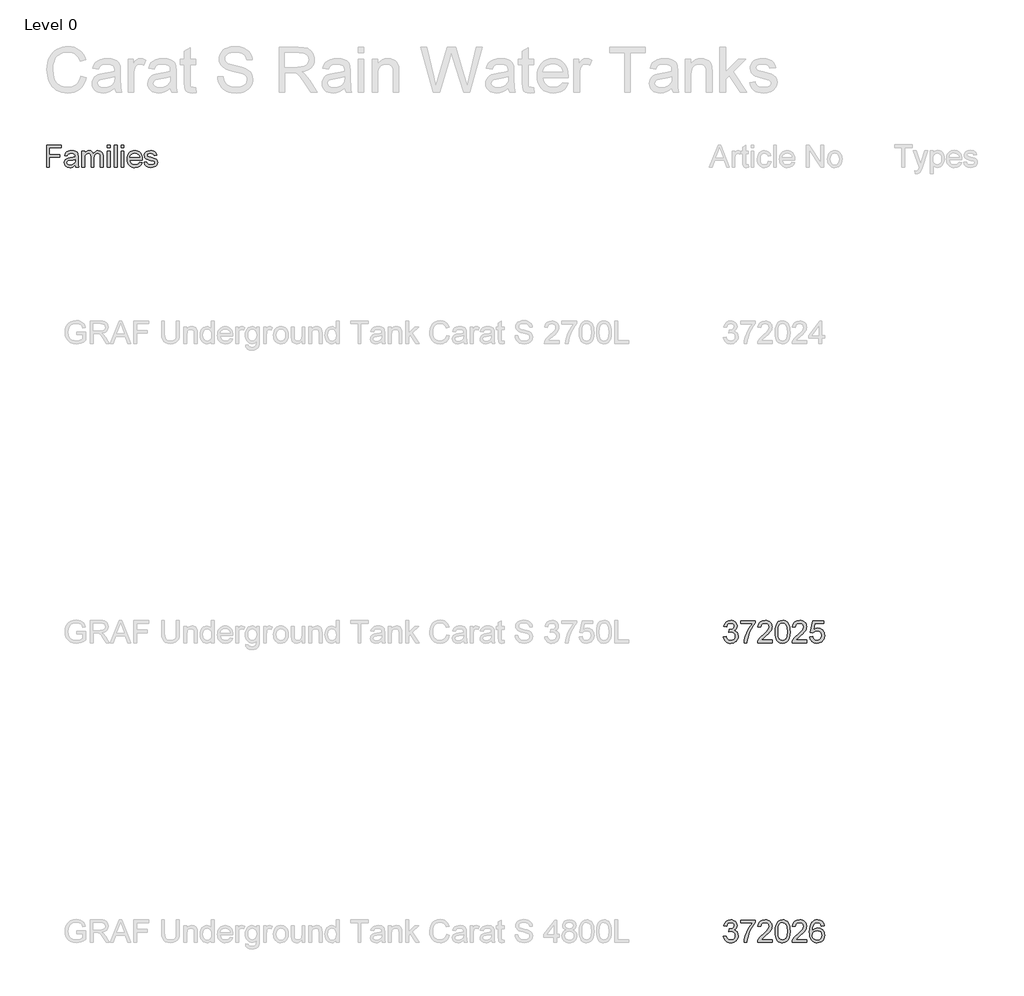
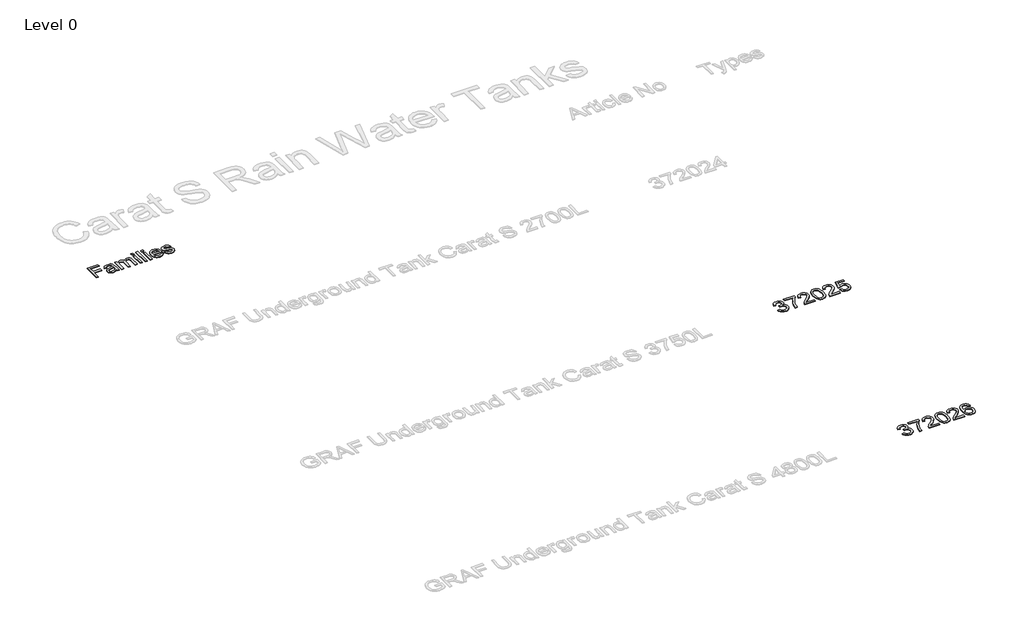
# One storey, part 17 of 20: 3 proxies.
"""IFC4 building model written with IfcOpenShell, lengths in millimetres."""

from ifc_helpers import new_model, si_unit, origin, origin_with_axes, place, context, project, spatial, polyline, outline, extrude, element, save

model = new_model("IFC4")

# Units and contexts
model_context = context("Model", 3, world=origin())
ifc_project = project(units=[si_unit("LENGTHUNIT", "METRE", prefix="MILLI")], contexts=[model_context])

# Site, building, storey
site = spatial("IfcSite", under=ifc_project)
building = spatial("IfcBuilding", under=site)
storey = spatial("IfcBuildingStorey", under=building, Name="Level 0", Elevation=0.0)

# Proxies
placement = place(None, origin())
element("IfcBuildingElementProxy", 1, Name="300mm Arial", ObjectType="300mm Arial", at=placement, inside=storey, context=model_context, shape_type="SweptSolid", body=[
    extrude(outline(polyline([(-15382.9152593, 11653.8274553), (-15382.9152593, 11949.2120707), (-15184.4537209, 11949.2120707), (-15184.4537209, 11912.2889938), (-15345.9921824, 11912.2889938), (-15345.9921824, 11824.5966861), (-15207.530644, 11824.5966861), (-15207.530644, 11787.6736092), (-15345.9921824, 11787.6736092), (-15345.9921824, 11653.8274553), (-15382.9152593, 11653.8274553)])), origin_with_axes(), (0.0, 0.0, 1.0), 10.0),
    extrude(outline(polyline([(-14999.8383363, 11681.519763), (-15017.4795622, 11666.3935611), (-15035.6436247, 11656.4957246), (-15054.7451872, 11651.0329842), (-15075.1989132, 11649.2120707), (-15106.0552834, 11653.5930803), (-15128.8167017, 11666.7361092), (-15142.8521584, 11686.6940419), (-15147.530644, 11711.519763), (-15145.763817, 11726.8262534), (-15140.4633363, 11740.7264938), (-15132.2872545, 11752.6255323), (-15121.8936247, 11761.9284169), (-15096.0402593, 11774.0438015), (-15064.093144, 11779.5966861), (-15026.3407401, 11785.4380323), (-15000.0546824, 11792.2889938), (-14999.8383363, 11800.5101476), (-15002.3804036, 11816.988513), (-15010.0066055, 11827.769763), (-15027.061894, 11835.7745707), (-15050.8239132, 11838.44284), (-15072.8191055, 11836.6669986), (-15088.1796824, 11831.3394746), (-15098.654442, 11821.4867101), (-15105.9921824, 11806.1351476), (-15142.9152593, 11810.7505323), (-15136.5060045, 11830.94284), (-15126.9417017, 11846.8082246), (-15113.3299228, 11858.941638), (-15094.7782401, 11867.9380323), (-15072.0889372, 11873.5089457), (-15046.0642978, 11875.3659169), (-15021.1033603, 11873.7252919), (-15001.3167017, 11868.8034169), (-14986.3978315, 11861.4025755), (-14976.0402593, 11852.3250515), (-14969.171269, 11841.1020948), (-14964.718144, 11827.2649553), (-14962.9152593, 11794.957263), (-14962.9152593, 11749.019763), (-14961.0402593, 11684.8731284), (-14953.6844901, 11653.8274553), (-14990.607567, 11653.8274553), (-14999.8383363, 11681.519763)]), holes=[polyline([(-14999.8383363, 11755.3659169), (-15059.405644, 11744.0438015), (-15091.1724709, 11738.0582246), (-15105.5594901, 11728.3226476), (-15110.607567, 11714.1159169), (-15107.858168, 11703.1363496), (-15099.6099709, 11694.1399553), (-15086.0432642, 11688.1363496), (-15067.3383363, 11686.1351476), (-15047.5066055, 11688.3436813), (-15029.982567, 11694.9692823), (-15015.7758363, 11704.7319025), (-15005.8960286, 11716.3514938), (-15001.515019, 11728.3226476), (-15000.0546824, 11744.9091861), (-14999.8383363, 11755.3659169)])]), origin_with_axes(), (0.0, 0.0, 1.0), 10.0),
    extrude(outline(polyline([(-14912.1460286, 11653.8274553), (-14912.1460286, 11870.7505323), (-14875.2229517, 11870.7505323), (-14875.2229517, 11835.0534169), (-14864.1171824, 11851.4506525), (-14849.8383363, 11864.2962053), (-14832.873192, 11872.598489), (-14813.7085286, 11875.3659169), (-14793.1736728, 11872.5444025), (-14776.7133363, 11864.0798592), (-14764.4176632, 11850.5311813), (-14756.3767978, 11832.457263), (-14742.9182642, 11851.2297991), (-14727.5667017, 11864.6387534), (-14710.3221103, 11872.684126), (-14691.1844901, 11875.3659169), (-14663.4290815, 11870.9037775), (-14642.9032401, 11857.5173592), (-14630.2199468, 11834.8460851), (-14625.9921824, 11802.5293784), (-14625.9921824, 11653.8274553), (-14662.9152593, 11653.8274553), (-14662.9152593, 11786.6639938), (-14666.3407401, 11817.4933207), (-14671.154442, 11825.9939217), (-14678.7445863, 11832.6736092), (-14688.5072065, 11837.0005323), (-14699.8383363, 11838.44284), (-14719.8413411, 11834.7469265), (-14736.1484324, 11823.6591861), (-14746.9927834, 11804.4224073), (-14750.607567, 11776.2793784), (-14750.607567, 11653.8274553), (-14787.530644, 11653.8274553), (-14787.530644, 11790.7745707), (-14789.6670622, 11811.6519746), (-14796.076317, 11826.5438015), (-14807.3533603, 11835.4680803), (-14824.093144, 11838.44284), (-14838.3179036, 11836.4596669), (-14851.4248747, 11830.5101476), (-14862.2421824, 11820.738513), (-14869.5979517, 11807.2889938), (-14873.8167017, 11788.629138), (-14875.2229517, 11763.2264938), (-14875.2229517, 11653.8274553), (-14912.1460286, 11653.8274553)])), origin_with_axes(), (0.0, 0.0, 1.0), 10.0),
    extrude(outline(polyline([(-14570.607567, 11912.2889938), (-14570.607567, 11949.2120707), (-14533.6844901, 11949.2120707), (-14533.6844901, 11912.2889938), (-14570.607567, 11912.2889938)])), origin_with_axes(), (0.0, 0.0, 1.0), 10.0),
    extrude(outline(polyline([(-14570.607567, 11653.8274553), (-14570.607567, 11870.7505323), (-14533.6844901, 11870.7505323), (-14533.6844901, 11653.8274553), (-14570.607567, 11653.8274553)])), origin_with_axes(), (0.0, 0.0, 1.0), 10.0),
    extrude(outline(polyline([(-14478.2998747, 11653.8274553), (-14478.2998747, 11949.2120707), (-14441.3767978, 11949.2120707), (-14441.3767978, 11653.8274553), (-14478.2998747, 11653.8274553)])), origin_with_axes(), (0.0, 0.0, 1.0), 10.0),
    extrude(outline(polyline([(-14385.9921824, 11912.2889938), (-14385.9921824, 11949.2120707), (-14349.0691055, 11949.2120707), (-14349.0691055, 11912.2889938), (-14385.9921824, 11912.2889938)])), origin_with_axes(), (0.0, 0.0, 1.0), 10.0),
    extrude(outline(polyline([(-14385.9921824, 11653.8274553), (-14385.9921824, 11870.7505323), (-14349.0691055, 11870.7505323), (-14349.0691055, 11653.8274553), (-14385.9921824, 11653.8274553)])), origin_with_axes(), (0.0, 0.0, 1.0), 10.0),
    extrude(outline(polyline([(-14141.8094901, 11718.44284), (-14105.607567, 11713.8274553), (-14118.6514372, 11686.5498111), (-14139.4657401, 11666.1591861), (-14167.5817257, 11653.4488496), (-14202.530644, 11649.2120707), (-14225.4408002, 11651.039745), (-14245.8539613, 11656.5227678), (-14263.7701271, 11665.6611392), (-14279.1892978, 11678.4548592), (-14291.5886367, 11694.547858), (-14300.4453074, 11713.5840659), (-14305.7593098, 11735.563483), (-14307.530644, 11760.4861092), (-14305.741281, 11786.2538375), (-14300.373192, 11808.9656765), (-14291.4263771, 11828.621626), (-14278.9008363, 11845.2216861), (-14263.5222305, 11858.4097871), (-14246.0162209, 11867.8298592), (-14226.3828074, 11873.4819025), (-14204.6219901, 11875.3659169), (-14183.5620442, 11873.4864097), (-14164.5168218, 11867.847888), (-14147.486323, 11858.450352), (-14132.4705478, 11845.2938015), (-14120.213186, 11828.7297991), (-14111.4579276, 11809.1099073), (-14106.2047726, 11786.434126), (-14104.4537209, 11760.7024553), (-14104.670067, 11750.7505323), (-14270.607567, 11750.7505323), (-14264.2163411, 11723.1123111), (-14249.3695863, 11702.7938015), (-14227.9423026, 11690.2998111), (-14201.8094901, 11686.1351476), (-14182.1580478, 11688.0642342), (-14165.607567, 11693.8514938), (-14152.1580478, 11703.8575034), (-14141.8094901, 11718.44284)]), holes=[polyline([(-14270.607567, 11787.6736092), (-14141.3767978, 11787.6736092), (-14146.3707882, 11807.1808207), (-14156.1604517, 11821.1351476), (-14177.686894, 11834.1159169), (-14204.7662209, 11838.44284), (-14229.655043, 11834.9903159), (-14250.2349709, 11824.6327438), (-14264.5408603, 11808.4879121), (-14270.607567, 11787.6736092)])]), origin_with_axes(), (0.0, 0.0, 1.0), 10.0),
    extrude(outline(polyline([(-14081.3767978, 11718.44284), (-14044.4537209, 11723.0582246), (-14038.6304036, 11707.2649553), (-14027.3623747, 11695.6543784), (-14010.577519, 11688.5149553), (-13988.2037209, 11686.1351476), (-13966.1003555, 11688.316638), (-13950.5594901, 11694.8611092), (-13941.3647786, 11704.3442823), (-13938.2998747, 11715.3418784), (-13941.3828074, 11724.7529361), (-13950.6316055, 11731.9284169), (-13988.6364132, 11742.457263), (-14044.2373747, 11760.5221669), (-14058.3088892, 11769.5996909), (-14068.5042017, 11781.6159169), (-14074.6971103, 11795.8046188), (-14076.7614132, 11811.3995707), (-14075.1027593, 11825.7054601), (-14070.1267978, 11838.91159), (-14062.2842497, 11850.4951236), (-14052.0258363, 11859.9332246), (-14028.5522786, 11870.8587053), (-13996.7854517, 11875.3659169), (-13972.7529997, 11873.5540178), (-13951.857567, 11868.1183207), (-13935.0546824, 11859.5906765), (-13923.2998747, 11848.5029361), (-13915.5114132, 11834.0347871), (-13910.607567, 11815.3659169), (-13947.530644, 11810.7505323), (-13952.1911007, 11822.3701236), (-13961.4128555, 11831.1231284), (-13975.2860526, 11836.6129121), (-13993.9008363, 11838.44284), (-14015.1027593, 11836.6940419), (-14029.2373747, 11831.4476476), (-14037.1880959, 11823.8755323), (-14039.8383363, 11815.1495707), (-14035.4392978, 11804.4043784), (-14021.6652593, 11796.25534), (-13989.8623747, 11788.394763), (-13935.6676632, 11771.0149553), (-13921.3527593, 11762.7036573), (-13910.499394, 11751.3274553), (-13903.6574468, 11736.8502919), (-13901.3767978, 11719.2361092), (-13904.0540815, 11701.0269746), (-13912.0859324, 11683.8995707), (-13925.1658603, 11669.1970467), (-13942.9873747, 11658.2625515), (-13964.513817, 11651.4746909), (-13988.7085286, 11649.2120707), (-14025.9380959, 11653.5750515), (-14053.107567, 11666.6639938), (-14071.2445863, 11688.3346669), (-14081.3767978, 11718.44284)])), origin_with_axes(), (0.0, 0.0, 1.0), 10.0),
])
element("IfcBuildingElementProxy", 2, Name="300mm Arial", ObjectType="300mm Arial", at=placement, inside=storey, context=model_context, shape_type="SweptSolid", body=[
    extrude(outline(polyline([(-6346.595864, 5379.074324), (-6308.9247477, 5383.7832135), (-6300.491053, 5360.1100071), (-6288.139415, 5344.1255344), (-6271.2628285, 5335.020455), (-6249.2542881, 5331.9854286), (-6223.428972, 5336.1608892), (-6203.4897679, 5348.6872712), (-6190.7426568, 5367.3756765), (-6186.4936197, 5390.0372074), (-6190.7058686, 5411.5491071), (-6203.3426151, 5428.9959107), (-6222.4724789, 5440.5566024), (-6246.1640793, 5444.4101663), (-6272.5780066, 5440.289888), (-6268.3841519, 5477.9610043), (-6262.3508871, 5477.5195459), (-6239.7813267, 5480.2234785), (-6219.6029993, 5488.3352765), (-6205.3659661, 5502.057275), (-6200.6202883, 5521.5918089), (-6204.059985, 5537.8613901), (-6214.379075, 5551.0591567), (-6230.1244244, 5559.8055512), (-6249.8428993, 5562.721016), (-6269.5981624, 5559.77796), (-6285.748182, 5550.9487921), (-6297.5388, 5536.2335123), (-6304.2158582, 5515.6321206), (-6341.8869745, 5520.3410101), (-6330.7953323, 5554.1677596), (-6311.0584633, 5579.4228585), (-6284.0559248, 5595.1498138), (-6251.1672745, 5600.3921323), (-6227.484871, 5597.8077613), (-6205.7338481, 5590.0546482), (-6187.3949306, 5577.8225719), (-6173.9488437, 5561.801311), (-6165.69909, 5543.3428319), (-6162.949172, 5523.7991009), (-6165.5611342, 5505.5889421), (-6173.3970207, 5489.0710405), (-6186.3464669, 5474.9995542), (-6204.2991083, 5464.1286413), (-6180.7178724, 5454.6004976), (-6163.2434776, 5438.3769016), (-6152.427747, 5416.3407701), (-6148.8225034, 5389.3750198), (-6150.6251252, 5370.2635502), (-6156.0329905, 5352.6603967), (-6165.0460994, 5336.5655594), (-6177.6644518, 5321.9790383), (-6193.0373207, 5309.8757207), (-6210.3139789, 5301.2304938), (-6229.4944264, 5296.0433577), (-6250.5786633, 5294.3143123), (-6269.6349506, 5295.7904388), (-6286.9989808, 5300.2188183), (-6302.6707538, 5307.5994508), (-6316.6502696, 5317.9323364), (-6328.3719097, 5330.6104696), (-6337.2700555, 5345.0268453), (-6343.3447069, 5361.1814634), (-6346.595864, 5379.074324)])), origin_with_axes(), (0.0, 0.0, 1.0), 10.0),
    extrude(outline(polyline([(-6115.8602767, 5558.0121264), (-6115.8602767, 5595.6832427), (-5918.086916, 5595.6832427), (-5918.086916, 5565.2226135), (-5946.2758739, 5529.547257), (-5974.1889203, 5484.17821), (-5998.8094228, 5433.2541448), (-6017.1207491, 5380.9137339), (-6026.0970698, 5341.7526956), (-6031.100265, 5299.0232018), (-6068.7713813, 5299.0232018), (-6064.6970882, 5337.8531464), (-6053.7985841, 5384.0039427), (-6036.3701745, 5432.923051), (-6012.7061652, 5480.0579316), (-5985.0782274, 5522.6678637), (-5955.7580324, 5558.0121264), (-6115.8602767, 5558.0121264)])), origin_with_axes(), (0.0, 0.0, 1.0), 10.0),
    extrude(outline(polyline([(-5692.0602182, 5336.6943181), (-5692.0602182, 5299.0232018), (-5889.8335788, 5299.0232018), (-5885.7868769, 5324.9956707), (-5876.4978565, 5345.2935598), (-5862.9046168, 5364.9844436), (-5843.2413241, 5385.5950323), (-5815.742145, 5408.6520364), (-5775.0911845, 5444.7596542), (-5750.7006082, 5471.4127048), (-5738.5053201, 5493.0441661), (-5734.4402241, 5514.0870162), (-5738.2753939, 5532.9501655), (-5749.7809033, 5548.6311355), (-5767.4668302, 5559.1985459), (-5789.8432525, 5562.721016), (-5813.341715, 5559.2813193), (-5831.597859, 5548.9622293), (-5843.3792799, 5532.5730865), (-5847.453573, 5510.923231), (-5885.1246893, 5515.6321206), (-5875.9920187, 5552.0708322), (-5867.4456601, 5566.6067695), (-5856.2459527, 5578.6870946), (-5842.6504137, 5588.1830486), (-5826.9165606, 5594.9658728), (-5789.0339121, 5600.3921323), (-5768.8440884, 5598.8838161), (-5750.8753522, 5594.3588675), (-5735.1277035, 5586.8172866), (-5721.6011424, 5576.2590734), (-5710.7371273, 5563.465977), (-5702.9771164, 5549.2197467), (-5698.3211099, 5533.5203826), (-5696.7691077, 5516.3678846), (-5698.4429708, 5498.3508639), (-5703.4645601, 5480.6465428), (-5712.3765014, 5462.6387192), (-5725.7214208, 5443.7111905), (-5746.9941971, 5421.114039), (-5779.6897095, 5392.0973466), (-5823.0262085, 5355.8609701), (-5840.0223567, 5336.6943181), (-5692.0602182, 5336.6943181)])), origin_with_axes(), (0.0, 0.0, 1.0), 10.0),
    extrude(outline(polyline([(-5654.3891019, 5447.2796459), (-5651.6207899, 5495.5181725), (-5643.3158539, 5533.9894321), (-5629.5570672, 5563.282036), (-5610.4272035, 5583.9845953), (-5585.7883069, 5596.290248), (-5555.5024216, 5600.3921323), (-5532.2890677, 5597.9641111), (-5511.503735, 5590.6800476), (-5494.1213107, 5578.8250503), (-5481.1166822, 5562.6842278), (-5471.2942329, 5542.3955357), (-5463.4583464, 5518.0969299), (-5458.3263926, 5487.2408276), (-5456.6157413, 5447.2796459), (-5459.3564622, 5399.3170308), (-5467.5786248, 5360.9377416), (-5481.2546379, 5331.6175466), (-5500.3569105, 5310.8322139), (-5525.0509895, 5298.4437877), (-5555.5024216, 5294.3143123), (-5576.2509661, 5296.107737), (-5594.6450659, 5301.4880112), (-5610.6847209, 5310.4551348), (-5624.3699311, 5323.0091079), (-5637.5033183, 5345.7028285), (-5646.8843092, 5373.9791583), (-5652.5129037, 5407.8380975), (-5654.3891019, 5447.2796459)]), holes=[polyline([(-5616.7179856, 5447.3532223), (-5612.3034017, 5388.0966299), (-5606.7851717, 5367.8286312), (-5599.0596498, 5353.8008309), (-5579.3411749, 5337.4392792), (-5555.5024216, 5331.9854286), (-5531.6636683, 5337.4576733), (-5511.9451934, 5353.8744073), (-5504.2196715, 5367.9252003), (-5498.7014415, 5388.1886004), (-5494.2868576, 5447.3532223), (-5498.5542887, 5505.2762424), (-5503.8885777, 5525.4775625), (-5511.3565822, 5539.8387559), (-5531.0382689, 5557.0004509), (-5555.94388, 5562.721016), (-5579.5251159, 5557.6810326), (-5598.4710386, 5542.5610826), (-5606.4540779, 5526.9260978), (-5612.1562489, 5505.8464595), (-5616.7179856, 5447.3532223)])]), origin_with_axes(), (0.0, 0.0, 1.0), 10.0),
    extrude(outline(polyline([(-5230.5890435, 5336.6943181), (-5230.5890435, 5299.0232018), (-5428.3624041, 5299.0232018), (-5424.3157021, 5324.9956707), (-5415.0266817, 5345.2935598), (-5401.433442, 5364.9844436), (-5381.7701494, 5385.5950323), (-5354.2709702, 5408.6520364), (-5313.6200098, 5444.7596542), (-5289.2294335, 5471.4127048), (-5277.0341454, 5493.0441661), (-5272.9690493, 5514.0870162), (-5276.8042191, 5532.9501655), (-5288.3097285, 5548.6311355), (-5305.9956554, 5559.1985459), (-5328.3720778, 5562.721016), (-5351.8705402, 5559.2813193), (-5370.1266842, 5548.9622293), (-5381.9081051, 5532.5730865), (-5385.9823982, 5510.923231), (-5423.6535145, 5515.6321206), (-5414.520844, 5552.0708322), (-5405.9744854, 5566.6067695), (-5394.7747779, 5578.6870946), (-5381.1792389, 5588.1830486), (-5365.4453858, 5594.9658728), (-5327.5627374, 5600.3921323), (-5307.3729136, 5598.8838161), (-5289.4041774, 5594.3588675), (-5273.6565288, 5586.8172866), (-5260.1299677, 5576.2590734), (-5249.2659525, 5563.465977), (-5241.5059417, 5549.2197467), (-5236.8499352, 5533.5203826), (-5235.297933, 5516.3678846), (-5236.9717961, 5498.3508639), (-5241.9933853, 5480.6465428), (-5250.9053266, 5462.6387192), (-5264.250246, 5443.7111905), (-5285.5230224, 5421.114039), (-5318.2185347, 5392.0973466), (-5361.5550337, 5355.8609701), (-5378.5511819, 5336.6943181), (-5230.5890435, 5336.6943181)])), origin_with_axes(), (0.0, 0.0, 1.0), 10.0),
    extrude(outline(polyline([(-5192.9179272, 5379.074324), (-5155.2468108, 5383.7832135), (-5148.3306293, 5361.1676679), (-5136.2640999, 5344.971663), (-5119.1024048, 5335.2319872), (-5096.9007264, 5331.9854286), (-5069.898188, 5336.5011801), (-5049.6646782, 5350.0484346), (-5037.0279317, 5371.0636935), (-5032.8156829, 5397.9834585), (-5036.7612173, 5423.330528), (-5048.5978204, 5442.7179091), (-5068.4174629, 5455.0235619), (-5096.3121152, 5459.1254461), (-5114.5866533, 5457.4883712), (-5129.3847066, 5452.5771466), (-5150.5379213, 5435.5809984), (-5188.2090376, 5440.289888), (-5155.2468108, 5595.6832427), (-5009.2712352, 5595.6832427), (-5009.2712352, 5558.0121264), (-5124.7861816, 5558.0121264), (-5140.899413, 5475.0179483), (-5113.9888451, 5491.3519089), (-5085.7906902, 5496.7965624), (-5067.4448749, 5495.1089038), (-5050.5935803, 5490.0459278), (-5035.2368062, 5481.6076346), (-5021.3745528, 5469.794024), (-5009.8989338, 5455.3270645), (-5001.7020631, 5438.9287246), (-4996.7839407, 5420.5990042), (-4995.1445665, 5400.3379033), (-5001.0490726, 5362.666787), (-5008.4297051, 5345.8729739), (-5018.7625906, 5330.4403242), (-5034.4159695, 5314.635194), (-5052.6813106, 5303.3458153), (-5073.5586138, 5296.572188), (-5097.0478792, 5294.3143123), (-5134.0476109, 5300.1176508), (-5149.7262817, 5307.3718238), (-5163.5241557, 5317.5276662), (-5175.0043733, 5330.07934), (-5183.7300743, 5344.5210076), (-5192.9179272, 5379.074324)])), origin_with_axes(), (0.0, 0.0, 1.0), 10.0),
])
element("IfcBuildingElementProxy", 3, Name="300mm Arial", ObjectType="300mm Arial", at=placement, inside=storey, context=model_context, shape_type="SweptSolid", body=[
    extrude(outline(polyline([(-6346.595864, 1379.074324), (-6308.9247477, 1383.7832135), (-6300.491053, 1360.1100071), (-6288.139415, 1344.1255344), (-6271.2628285, 1335.020455), (-6249.2542881, 1331.9854286), (-6223.428972, 1336.1608892), (-6203.4897679, 1348.6872712), (-6190.7426568, 1367.3756765), (-6186.4936197, 1390.0372074), (-6190.7058686, 1411.5491071), (-6203.3426151, 1428.9959107), (-6222.4724789, 1440.5566024), (-6246.1640793, 1444.4101663), (-6272.5780066, 1440.289888), (-6268.3841519, 1477.9610043), (-6262.3508871, 1477.5195459), (-6239.7813267, 1480.2234785), (-6219.6029993, 1488.3352765), (-6205.3659661, 1502.057275), (-6200.6202883, 1521.5918089), (-6204.059985, 1537.8613901), (-6214.379075, 1551.0591567), (-6230.1244244, 1559.8055512), (-6249.8428993, 1562.721016), (-6269.5981624, 1559.77796), (-6285.748182, 1550.9487921), (-6297.5388, 1536.2335123), (-6304.2158582, 1515.6321206), (-6341.8869745, 1520.3410101), (-6330.7953323, 1554.1677596), (-6311.0584633, 1579.4228585), (-6284.0559248, 1595.1498138), (-6251.1672745, 1600.3921323), (-6227.484871, 1597.8077613), (-6205.7338481, 1590.0546482), (-6187.3949306, 1577.8225719), (-6173.9488437, 1561.801311), (-6165.69909, 1543.3428319), (-6162.949172, 1523.7991009), (-6165.5611342, 1505.5889421), (-6173.3970207, 1489.0710405), (-6186.3464669, 1474.9995542), (-6204.2991083, 1464.1286413), (-6180.7178724, 1454.6004976), (-6163.2434776, 1438.3769016), (-6152.427747, 1416.3407701), (-6148.8225034, 1389.3750198), (-6150.6251252, 1370.2635502), (-6156.0329905, 1352.6603967), (-6165.0460994, 1336.5655594), (-6177.6644518, 1321.9790383), (-6193.0373207, 1309.8757207), (-6210.3139789, 1301.2304938), (-6229.4944264, 1296.0433577), (-6250.5786633, 1294.3143123), (-6269.6349506, 1295.7904388), (-6286.9989808, 1300.2188183), (-6302.6707538, 1307.5994508), (-6316.6502696, 1317.9323364), (-6328.3719097, 1330.6104696), (-6337.2700555, 1345.0268453), (-6343.3447069, 1361.1814634), (-6346.595864, 1379.074324)])), origin_with_axes(), (0.0, 0.0, 1.0), 10.0),
    extrude(outline(polyline([(-6115.8602767, 1558.0121264), (-6115.8602767, 1595.6832427), (-5918.086916, 1595.6832427), (-5918.086916, 1565.2226135), (-5946.2758739, 1529.547257), (-5974.1889203, 1484.17821), (-5998.8094228, 1433.2541448), (-6017.1207491, 1380.9137339), (-6026.0970698, 1341.7526956), (-6031.100265, 1299.0232018), (-6068.7713813, 1299.0232018), (-6064.6970882, 1337.8531464), (-6053.7985841, 1384.0039427), (-6036.3701745, 1432.923051), (-6012.7061652, 1480.0579316), (-5985.0782274, 1522.6678637), (-5955.7580324, 1558.0121264), (-6115.8602767, 1558.0121264)])), origin_with_axes(), (0.0, 0.0, 1.0), 10.0),
    extrude(outline(polyline([(-5692.0602182, 1336.6943181), (-5692.0602182, 1299.0232018), (-5889.8335788, 1299.0232018), (-5885.7868769, 1324.9956707), (-5876.4978565, 1345.2935598), (-5862.9046168, 1364.9844436), (-5843.2413241, 1385.5950323), (-5815.742145, 1408.6520364), (-5775.0911845, 1444.7596542), (-5750.7006082, 1471.4127048), (-5738.5053201, 1493.0441661), (-5734.4402241, 1514.0870162), (-5738.2753939, 1532.9501655), (-5749.7809033, 1548.6311355), (-5767.4668302, 1559.1985459), (-5789.8432525, 1562.721016), (-5813.341715, 1559.2813193), (-5831.597859, 1548.9622293), (-5843.3792799, 1532.5730865), (-5847.453573, 1510.923231), (-5885.1246893, 1515.6321206), (-5875.9920187, 1552.0708322), (-5867.4456601, 1566.6067695), (-5856.2459527, 1578.6870946), (-5842.6504137, 1588.1830486), (-5826.9165606, 1594.9658728), (-5789.0339121, 1600.3921323), (-5768.8440884, 1598.8838161), (-5750.8753522, 1594.3588675), (-5735.1277035, 1586.8172866), (-5721.6011424, 1576.2590734), (-5710.7371273, 1563.465977), (-5702.9771164, 1549.2197467), (-5698.3211099, 1533.5203826), (-5696.7691077, 1516.3678846), (-5698.4429708, 1498.3508639), (-5703.4645601, 1480.6465428), (-5712.3765014, 1462.6387192), (-5725.7214208, 1443.7111905), (-5746.9941971, 1421.114039), (-5779.6897095, 1392.0973466), (-5823.0262085, 1355.8609701), (-5840.0223567, 1336.6943181), (-5692.0602182, 1336.6943181)])), origin_with_axes(), (0.0, 0.0, 1.0), 10.0),
    extrude(outline(polyline([(-5654.3891019, 1447.2796459), (-5651.6207899, 1495.5181725), (-5643.3158539, 1533.9894321), (-5629.5570672, 1563.282036), (-5610.4272035, 1583.9845953), (-5585.7883069, 1596.290248), (-5555.5024216, 1600.3921323), (-5532.2890677, 1597.9641111), (-5511.503735, 1590.6800476), (-5494.1213107, 1578.8250503), (-5481.1166822, 1562.6842278), (-5471.2942329, 1542.3955357), (-5463.4583464, 1518.0969299), (-5458.3263926, 1487.2408276), (-5456.6157413, 1447.2796459), (-5459.3564622, 1399.3170308), (-5467.5786248, 1360.9377416), (-5481.2546379, 1331.6175466), (-5500.3569105, 1310.8322139), (-5525.0509895, 1298.4437877), (-5555.5024216, 1294.3143123), (-5576.2509661, 1296.107737), (-5594.6450659, 1301.4880112), (-5610.6847209, 1310.4551348), (-5624.3699311, 1323.0091079), (-5637.5033183, 1345.7028285), (-5646.8843092, 1373.9791583), (-5652.5129037, 1407.8380975), (-5654.3891019, 1447.2796459)]), holes=[polyline([(-5616.7179856, 1447.3532223), (-5612.3034017, 1388.0966299), (-5606.7851717, 1367.8286312), (-5599.0596498, 1353.8008309), (-5579.3411749, 1337.4392792), (-5555.5024216, 1331.9854286), (-5531.6636683, 1337.4576733), (-5511.9451934, 1353.8744073), (-5504.2196715, 1367.9252003), (-5498.7014415, 1388.1886004), (-5494.2868576, 1447.3532223), (-5498.5542887, 1505.2762424), (-5503.8885777, 1525.4775625), (-5511.3565822, 1539.8387559), (-5531.0382689, 1557.0004509), (-5555.94388, 1562.721016), (-5579.5251159, 1557.6810326), (-5598.4710386, 1542.5610826), (-5606.4540779, 1526.9260978), (-5612.1562489, 1505.8464595), (-5616.7179856, 1447.3532223)])]), origin_with_axes(), (0.0, 0.0, 1.0), 10.0),
    extrude(outline(polyline([(-5230.5890435, 1336.6943181), (-5230.5890435, 1299.0232018), (-5428.3624041, 1299.0232018), (-5424.3157021, 1324.9956707), (-5415.0266817, 1345.2935598), (-5401.433442, 1364.9844436), (-5381.7701494, 1385.5950323), (-5354.2709702, 1408.6520364), (-5313.6200098, 1444.7596542), (-5289.2294335, 1471.4127048), (-5277.0341454, 1493.0441661), (-5272.9690493, 1514.0870162), (-5276.8042191, 1532.9501655), (-5288.3097285, 1548.6311355), (-5305.9956554, 1559.1985459), (-5328.3720778, 1562.721016), (-5351.8705402, 1559.2813193), (-5370.1266842, 1548.9622293), (-5381.9081051, 1532.5730865), (-5385.9823982, 1510.923231), (-5423.6535145, 1515.6321206), (-5414.520844, 1552.0708322), (-5405.9744854, 1566.6067695), (-5394.7747779, 1578.6870946), (-5381.1792389, 1588.1830486), (-5365.4453858, 1594.9658728), (-5327.5627374, 1600.3921323), (-5307.3729136, 1598.8838161), (-5289.4041774, 1594.3588675), (-5273.6565288, 1586.8172866), (-5260.1299677, 1576.2590734), (-5249.2659525, 1563.465977), (-5241.5059417, 1549.2197467), (-5236.8499352, 1533.5203826), (-5235.297933, 1516.3678846), (-5236.9717961, 1498.3508639), (-5241.9933853, 1480.6465428), (-5250.9053266, 1462.6387192), (-5264.250246, 1443.7111905), (-5285.5230224, 1421.114039), (-5318.2185347, 1392.0973466), (-5361.5550337, 1355.8609701), (-5378.5511819, 1336.6943181), (-5230.5890435, 1336.6943181)])), origin_with_axes(), (0.0, 0.0, 1.0), 10.0),
    extrude(outline(polyline([(-4999.8534561, 1520.3410101), (-5037.5245724, 1515.6321206), (-5043.5946253, 1534.3021318), (-5051.7983938, 1547.049243), (-5068.8865125, 1558.8030727), (-5089.5430865, 1562.721016), (-5107.0542695, 1560.4401476), (-5123.5353829, 1553.5975425), (-5137.6896426, 1539.1857653), (-5149.2503343, 1519.3477287), (-5157.0586297, 1491.2875296), (-5159.9557004, 1452.2092646), (-5144.8449474, 1469.8400092), (-5126.7359562, 1482.2652236), (-5106.6404022, 1489.6320606), (-5085.569961, 1492.0876729), (-5067.4701668, 1490.4092113), (-5050.7683242, 1485.3738265), (-5035.4644332, 1476.9815185), (-5021.5584938, 1465.2322872), (-5010.0024006, 1450.8251086), (-5001.7480484, 1434.4589583), (-4996.795437, 1416.1338365), (-4995.1445665, 1395.849743), (-4998.2531694, 1368.8747957), (-5007.578978, 1343.868017), (-5022.3494401, 1322.65962), (-5041.7920035, 1307.0798175), (-5065.0237515, 1297.5056886), (-5091.1617673, 1294.3143123), (-5113.6186638, 1296.4296338), (-5133.9004581, 1302.7755982), (-5152.00715, 1313.3522055), (-5167.9387397, 1328.1594558), (-5180.9272734, 1347.8227485), (-5190.2047974, 1372.9674829), (-5195.7713119, 1403.593659), (-5197.6268167, 1439.7012768), (-5195.5666775, 1480.1820918), (-5189.38626, 1514.7308097), (-5179.0855641, 1543.3474304), (-5164.6645899, 1566.0319539), (-5149.0342037, 1581.0645319), (-5130.9114169, 1591.8020877), (-5110.2962296, 1598.2446211), (-5087.1886417, 1600.3921323), (-5054.1344445, 1595.0762374), (-5027.6653349, 1579.1285529), (-5009.1240824, 1553.7998776), (-4999.8534561, 1520.3410101)]), holes=[polyline([(-5159.9557004, 1396.4383541), (-5157.7759996, 1379.7457086), (-5151.2368971, 1363.8072212), (-5141.083354, 1350.1036169), (-5128.0603314, 1340.1156207), (-5112.3425732, 1334.0179766), (-5094.1048233, 1331.9854286), (-5069.2451974, 1336.1976774), (-5049.7014664, 1348.834424), (-5037.0371287, 1368.7000517), (-5032.8156829, 1394.5989442), (-5036.9819464, 1419.45857), (-5049.4807372, 1438.4136898), (-5069.355562, 1450.4158399), (-5095.6499276, 1454.4165566), (-5120.4727653, 1450.4158399), (-5141.2305068, 1438.4136898), (-5155.274402, 1419.9184225), (-5159.9557004, 1396.4383541)])]), origin_with_axes(), (0.0, 0.0, 1.0), 10.0),
])

save(model, "model.ifc")
